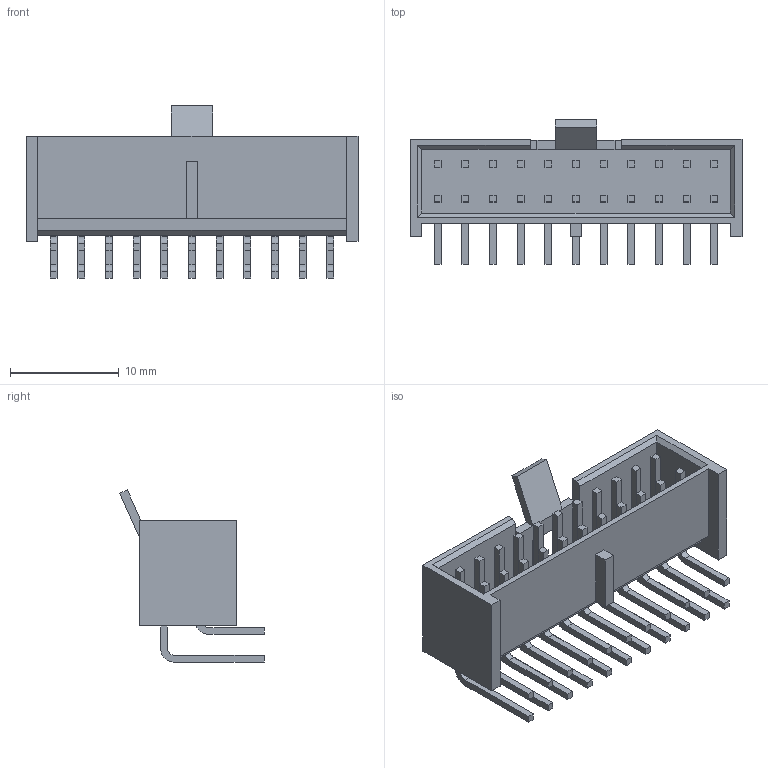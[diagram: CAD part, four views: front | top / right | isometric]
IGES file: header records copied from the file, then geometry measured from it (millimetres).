
Start section:  PTC IGES file: c-1-1888292-6-a-3d.igs
Global section: file name: c-1-1888292-6-a-3d.igs; native system: Creo Parametric by Parametric Technology Corporation; preprocessor: 2014090; author: workeradm; organization: Unknown; units: millimetre
Bounding box: 30.48 x 13.28 x 15.81 mm (x, y, z)
Surface area: 2558.2 mm2 (no closed solid volume)
Topology: 0 solids, 0 shells, 358 faces, 1864 edges, 1864 vertices
Faces by surface type: bspline 314, revolution 44
